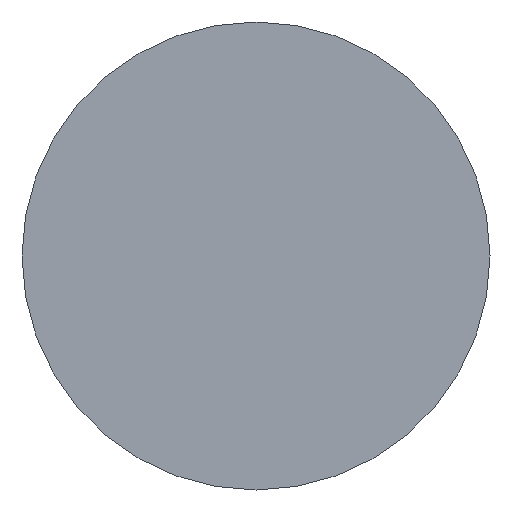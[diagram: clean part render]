
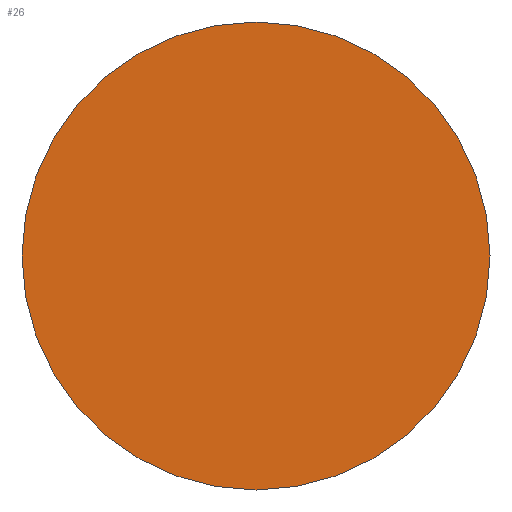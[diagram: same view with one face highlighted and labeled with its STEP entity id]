
A CAD part, left-side view. The second image highlights one B-rep face of the part: STEP entity #26.
In plain terms, the highlighted planar face has unit normal (-1, 0, 0).
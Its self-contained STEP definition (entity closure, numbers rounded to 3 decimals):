
#1 = PLANE ( 'NONE',  #69 ) ;
#25 = AXIS2_PLACEMENT_3D ( 'NONE', #85, #214, #262 ) ;
#26 = ADVANCED_FACE ( 'NONE', ( #123 ), #1, .T. ) ;
#27 = CARTESIAN_POINT ( 'NONE',  ( 0., -7., 0. ) ) ;
#29 = CARTESIAN_POINT ( 'NONE',  ( 0., 0., 0. ) ) ;
#37 = DIRECTION ( 'NONE',  ( 1., 0., 0. ) ) ;
#62 = ORIENTED_EDGE ( 'NONE', *, *, #179, .F. ) ;
#69 = AXIS2_PLACEMENT_3D ( 'NONE', #104, #93, #128 ) ;
#85 = CARTESIAN_POINT ( 'NONE',  ( 0., 0., 0. ) ) ;
#93 = DIRECTION ( 'NONE',  ( -1., 0., 0. ) ) ;
#96 = AXIS2_PLACEMENT_3D ( 'NONE', #29, #37, #195 ) ;
#104 = CARTESIAN_POINT ( 'NONE',  ( 0., 0., 0. ) ) ;
#110 = ORIENTED_EDGE ( 'NONE', *, *, #248, .F. ) ;
#121 = CIRCLE ( 'NONE', #96, 7. ) ;
#123 = FACE_OUTER_BOUND ( 'NONE', #162, .T. ) ;
#128 = DIRECTION ( 'NONE',  ( 0., -1., 0. ) ) ;
#162 = EDGE_LOOP ( 'NONE', ( #62, #110 ) ) ;
#164 = CARTESIAN_POINT ( 'NONE',  ( 0., 7., 0. ) ) ;
#179 = EDGE_CURVE ( 'NONE', #251, #230, #204, .T. ) ;
#195 = DIRECTION ( 'NONE',  ( 0., 1., 0. ) ) ;
#204 = CIRCLE ( 'NONE', #25, 7. ) ;
#214 = DIRECTION ( 'NONE',  ( 1., 0., 0. ) ) ;
#230 = VERTEX_POINT ( 'NONE', #27 ) ;
#248 = EDGE_CURVE ( 'NONE', #230, #251, #121, .T. ) ;
#251 = VERTEX_POINT ( 'NONE', #164 ) ;
#262 = DIRECTION ( 'NONE',  ( 0., 1., 0. ) ) ;
